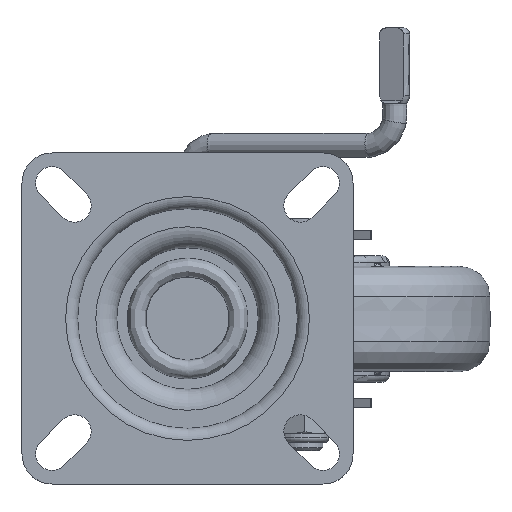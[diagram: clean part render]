
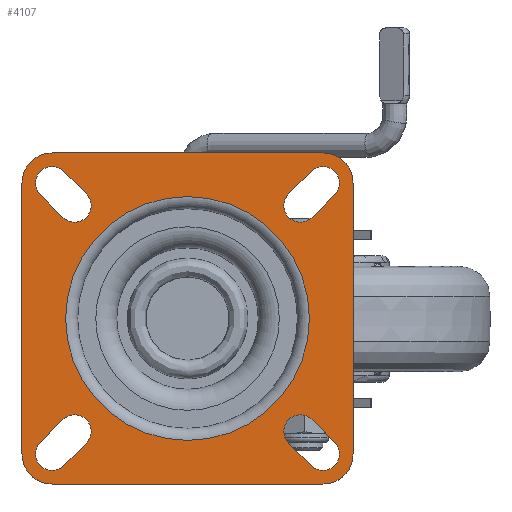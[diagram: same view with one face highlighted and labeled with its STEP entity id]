
A CAD part, top view. The second image highlights one B-rep face of the part: STEP entity #4107.
In plain terms, the highlighted planar face has unit normal (0, 0, 1).
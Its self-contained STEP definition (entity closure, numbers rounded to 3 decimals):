
#667=LINE('',#33114,#1334);
#668=LINE('',#33119,#1335);
#669=LINE('',#33125,#1336);
#670=LINE('',#33129,#1337);
#671=LINE('',#33130,#1338);
#672=LINE('',#33135,#1339);
#673=LINE('',#33139,#1340);
#674=LINE('',#33143,#1341);
#675=LINE('',#33149,#1342);
#676=LINE('',#33153,#1343);
#677=LINE('',#33154,#1344);
#678=LINE('',#33159,#1345);
#1334=VECTOR('',#19360,1.);
#1335=VECTOR('',#19363,1.);
#1336=VECTOR('',#19368,1.);
#1337=VECTOR('',#19371,1.);
#1338=VECTOR('',#19372,1.);
#1339=VECTOR('',#19375,1.);
#1340=VECTOR('',#19378,1.);
#1341=VECTOR('',#19381,1.);
#1342=VECTOR('',#19386,1.);
#1343=VECTOR('',#19389,1.);
#1344=VECTOR('',#19390,1.);
#1345=VECTOR('',#19393,1.);
#1829=PLANE('',#16279);
#2659=CIRCLE('',#16263,40.5);
#2661=CIRCLE('',#16267,5.5);
#2662=CIRCLE('',#16268,5.5);
#2663=CIRCLE('',#16269,5.5);
#2664=CIRCLE('',#16270,5.5);
#2665=CIRCLE('',#16271,10.);
#2666=CIRCLE('',#16272,10.);
#2667=CIRCLE('',#16273,10.);
#2668=CIRCLE('',#16274,10.);
#2669=CIRCLE('',#16275,5.5);
#2670=CIRCLE('',#16276,5.5);
#2671=CIRCLE('',#16277,5.5);
#2672=CIRCLE('',#16278,5.5);
#3197=FACE_BOUND('',#5961,.T.);
#3198=FACE_BOUND('',#5962,.T.);
#3199=FACE_BOUND('',#5963,.T.);
#3200=FACE_BOUND('',#5964,.T.);
#3201=FACE_BOUND('',#5965,.T.);
#3202=FACE_BOUND('',#5966,.T.);
#4107=ADVANCED_FACE('',(#3197,#3198,#3199,#3200,#3201,#3202),#1829,.T.);
#5961=EDGE_LOOP('',(#9905,#9906,#9907,#9908));
#5962=EDGE_LOOP('',(#9909,#9910,#9911,#9912));
#5963=EDGE_LOOP('',(#9913));
#5964=EDGE_LOOP('',(#9914,#9915,#9916,#9917,#9918,#9919,#9920,#9921));
#5965=EDGE_LOOP('',(#9922,#9923,#9924,#9925));
#5966=EDGE_LOOP('',(#9926,#9927,#9928,#9929));
#9905=ORIENTED_EDGE('',*,*,#13979,.F.);
#9906=ORIENTED_EDGE('',*,*,#13980,.T.);
#9907=ORIENTED_EDGE('',*,*,#13981,.F.);
#9908=ORIENTED_EDGE('',*,*,#13982,.T.);
#9909=ORIENTED_EDGE('',*,*,#13983,.F.);
#9910=ORIENTED_EDGE('',*,*,#13984,.T.);
#9911=ORIENTED_EDGE('',*,*,#13985,.F.);
#9912=ORIENTED_EDGE('',*,*,#13986,.T.);
#9913=ORIENTED_EDGE('',*,*,#13977,.T.);
#9914=ORIENTED_EDGE('',*,*,#13987,.T.);
#9915=ORIENTED_EDGE('',*,*,#13988,.T.);
#9916=ORIENTED_EDGE('',*,*,#13989,.F.);
#9917=ORIENTED_EDGE('',*,*,#13990,.T.);
#9918=ORIENTED_EDGE('',*,*,#13991,.T.);
#9919=ORIENTED_EDGE('',*,*,#13992,.T.);
#9920=ORIENTED_EDGE('',*,*,#13993,.F.);
#9921=ORIENTED_EDGE('',*,*,#13994,.T.);
#9922=ORIENTED_EDGE('',*,*,#13995,.F.);
#9923=ORIENTED_EDGE('',*,*,#13996,.T.);
#9924=ORIENTED_EDGE('',*,*,#13997,.F.);
#9925=ORIENTED_EDGE('',*,*,#13998,.T.);
#9926=ORIENTED_EDGE('',*,*,#13999,.F.);
#9927=ORIENTED_EDGE('',*,*,#14000,.T.);
#9928=ORIENTED_EDGE('',*,*,#14001,.F.);
#9929=ORIENTED_EDGE('',*,*,#14002,.T.);
#11829=VERTEX_POINT('',#33109);
#11831=VERTEX_POINT('',#33115);
#11832=VERTEX_POINT('',#33116);
#11833=VERTEX_POINT('',#33118);
#11834=VERTEX_POINT('',#33120);
#11835=VERTEX_POINT('',#33123);
#11836=VERTEX_POINT('',#33124);
#11837=VERTEX_POINT('',#33126);
#11838=VERTEX_POINT('',#33128);
#11839=VERTEX_POINT('',#33131);
#11840=VERTEX_POINT('',#33132);
#11841=VERTEX_POINT('',#33134);
#11842=VERTEX_POINT('',#33136);
#11843=VERTEX_POINT('',#33138);
#11844=VERTEX_POINT('',#33140);
#11845=VERTEX_POINT('',#33142);
#11846=VERTEX_POINT('',#33144);
#11847=VERTEX_POINT('',#33147);
#11848=VERTEX_POINT('',#33148);
#11849=VERTEX_POINT('',#33150);
#11850=VERTEX_POINT('',#33152);
#11851=VERTEX_POINT('',#33155);
#11852=VERTEX_POINT('',#33156);
#11853=VERTEX_POINT('',#33158);
#11854=VERTEX_POINT('',#33160);
#13977=EDGE_CURVE('',#11829,#11829,#2659,.T.);
#13979=EDGE_CURVE('',#11831,#11832,#667,.T.);
#13980=EDGE_CURVE('',#11831,#11833,#2661,.T.);
#13981=EDGE_CURVE('',#11834,#11833,#668,.T.);
#13982=EDGE_CURVE('',#11834,#11832,#2662,.T.);
#13983=EDGE_CURVE('',#11835,#11836,#2663,.T.);
#13984=EDGE_CURVE('',#11835,#11837,#669,.T.);
#13985=EDGE_CURVE('',#11838,#11837,#2664,.T.);
#13986=EDGE_CURVE('',#11838,#11836,#670,.T.);
#13987=EDGE_CURVE('',#11839,#11840,#671,.T.);
#13988=EDGE_CURVE('',#11840,#11841,#2665,.T.);
#13989=EDGE_CURVE('',#11842,#11841,#672,.T.);
#13990=EDGE_CURVE('',#11842,#11843,#2666,.T.);
#13991=EDGE_CURVE('',#11843,#11844,#673,.T.);
#13992=EDGE_CURVE('',#11844,#11845,#2667,.T.);
#13993=EDGE_CURVE('',#11846,#11845,#674,.T.);
#13994=EDGE_CURVE('',#11846,#11839,#2668,.T.);
#13995=EDGE_CURVE('',#11847,#11848,#2669,.T.);
#13996=EDGE_CURVE('',#11847,#11849,#675,.T.);
#13997=EDGE_CURVE('',#11850,#11849,#2670,.T.);
#13998=EDGE_CURVE('',#11850,#11848,#676,.T.);
#13999=EDGE_CURVE('',#11851,#11852,#677,.T.);
#14000=EDGE_CURVE('',#11851,#11853,#2671,.T.);
#14001=EDGE_CURVE('',#11854,#11853,#678,.T.);
#14002=EDGE_CURVE('',#11854,#11852,#2672,.T.);
#16263=AXIS2_PLACEMENT_3D('',#33108,#19352,#19353);
#16267=AXIS2_PLACEMENT_3D('',#33117,#19361,#19362);
#16268=AXIS2_PLACEMENT_3D('',#33121,#19364,#19365);
#16269=AXIS2_PLACEMENT_3D('',#33122,#19366,#19367);
#16270=AXIS2_PLACEMENT_3D('',#33127,#19369,#19370);
#16271=AXIS2_PLACEMENT_3D('',#33133,#19373,#19374);
#16272=AXIS2_PLACEMENT_3D('',#33137,#19376,#19377);
#16273=AXIS2_PLACEMENT_3D('',#33141,#19379,#19380);
#16274=AXIS2_PLACEMENT_3D('',#33145,#19382,#19383);
#16275=AXIS2_PLACEMENT_3D('',#33146,#19384,#19385);
#16276=AXIS2_PLACEMENT_3D('',#33151,#19387,#19388);
#16277=AXIS2_PLACEMENT_3D('',#33157,#19391,#19392);
#16278=AXIS2_PLACEMENT_3D('',#33161,#19394,#19395);
#16279=AXIS2_PLACEMENT_3D('',#33162,#19396,#19397);
#19352=DIRECTION('',(0.,0.,-1.));
#19353=DIRECTION('',(1.,0.,0.));
#19360=DIRECTION('',(0.707,-0.707,0.));
#19361=DIRECTION('',(0.,0.,-1.));
#19362=DIRECTION('',(1.,0.,0.));
#19363=DIRECTION('',(-0.707,0.707,0.));
#19364=DIRECTION('',(0.,0.,-1.));
#19365=DIRECTION('',(1.,0.,0.));
#19366=DIRECTION('',(0.,0.,1.));
#19367=DIRECTION('',(1.,0.,0.));
#19368=DIRECTION('',(0.707,0.707,0.));
#19369=DIRECTION('',(0.,0.,1.));
#19370=DIRECTION('',(1.,0.,0.));
#19371=DIRECTION('',(-0.707,-0.707,0.));
#19372=DIRECTION('',(1.,0.,0.));
#19373=DIRECTION('',(0.,0.,1.));
#19374=DIRECTION('',(1.,0.,0.));
#19375=DIRECTION('',(0.,-1.,0.));
#19376=DIRECTION('',(0.,0.,1.));
#19377=DIRECTION('',(1.,0.,0.));
#19378=DIRECTION('',(-1.,0.,0.));
#19379=DIRECTION('',(0.,0.,1.));
#19380=DIRECTION('',(1.,0.,0.));
#19381=DIRECTION('',(0.,1.,0.));
#19382=DIRECTION('',(0.,0.,1.));
#19383=DIRECTION('',(1.,0.,0.));
#19384=DIRECTION('',(0.,0.,1.));
#19385=DIRECTION('',(-1.,0.,0.));
#19386=DIRECTION('',(-0.707,-0.707,0.));
#19387=DIRECTION('',(0.,0.,1.));
#19388=DIRECTION('',(-1.,0.,0.));
#19389=DIRECTION('',(0.707,0.707,0.));
#19390=DIRECTION('',(-0.707,0.707,0.));
#19391=DIRECTION('',(0.,0.,-1.));
#19392=DIRECTION('',(-1.,0.,0.));
#19393=DIRECTION('',(0.707,-0.707,0.));
#19394=DIRECTION('',(0.,0.,-1.));
#19395=DIRECTION('',(-1.,0.,0.));
#19396=DIRECTION('',(0.,0.,1.));
#19397=DIRECTION('',(-1.,0.,0.));
#33108=CARTESIAN_POINT('',(0.,0.,0.));
#33109=CARTESIAN_POINT('',(40.5,0.,0.));
#33114=CARTESIAN_POINT('',(37.361,-45.139,0.));
#33115=CARTESIAN_POINT('',(33.611,-41.389,0.));
#33116=CARTESIAN_POINT('',(41.111,-48.889,0.));
#33117=CARTESIAN_POINT('',(37.5,-37.5,0.));
#33118=CARTESIAN_POINT('',(41.389,-33.611,0.));
#33119=CARTESIAN_POINT('',(45.139,-37.361,0.));
#33120=CARTESIAN_POINT('',(48.889,-41.111,0.));
#33121=CARTESIAN_POINT('',(45.,-45.,0.));
#33122=CARTESIAN_POINT('',(37.5,37.5,0.));
#33123=CARTESIAN_POINT('',(33.611,41.389,0.));
#33124=CARTESIAN_POINT('',(41.389,33.611,0.));
#33125=CARTESIAN_POINT('',(37.361,45.139,0.));
#33126=CARTESIAN_POINT('',(41.111,48.889,0.));
#33127=CARTESIAN_POINT('',(45.,45.,0.));
#33128=CARTESIAN_POINT('',(48.889,41.111,0.));
#33129=CARTESIAN_POINT('',(45.139,37.361,0.));
#33130=CARTESIAN_POINT('',(-55.,-55.,0.));
#33131=CARTESIAN_POINT('',(-45.,-55.,0.));
#33132=CARTESIAN_POINT('',(45.,-55.,0.));
#33133=CARTESIAN_POINT('',(45.,-45.,0.));
#33134=CARTESIAN_POINT('',(55.,-45.,0.));
#33135=CARTESIAN_POINT('',(55.,0.,0.));
#33136=CARTESIAN_POINT('',(55.,45.,0.));
#33137=CARTESIAN_POINT('',(45.,45.,0.));
#33138=CARTESIAN_POINT('',(45.,55.,0.));
#33139=CARTESIAN_POINT('',(-55.,55.,0.));
#33140=CARTESIAN_POINT('',(-45.,55.,0.));
#33141=CARTESIAN_POINT('',(-45.,45.,0.));
#33142=CARTESIAN_POINT('',(-55.,45.,0.));
#33143=CARTESIAN_POINT('',(-55.,0.,0.));
#33144=CARTESIAN_POINT('',(-55.,-45.,0.));
#33145=CARTESIAN_POINT('',(-45.,-45.,0.));
#33146=CARTESIAN_POINT('',(-37.5,-37.5,0.));
#33147=CARTESIAN_POINT('',(-33.611,-41.389,0.));
#33148=CARTESIAN_POINT('',(-41.389,-33.611,0.));
#33149=CARTESIAN_POINT('',(-37.361,-45.139,0.));
#33150=CARTESIAN_POINT('',(-41.111,-48.889,0.));
#33151=CARTESIAN_POINT('',(-45.,-45.,0.));
#33152=CARTESIAN_POINT('',(-48.889,-41.111,0.));
#33153=CARTESIAN_POINT('',(-45.139,-37.361,0.));
#33154=CARTESIAN_POINT('',(-37.361,45.139,0.));
#33155=CARTESIAN_POINT('',(-33.611,41.389,0.));
#33156=CARTESIAN_POINT('',(-41.111,48.889,0.));
#33157=CARTESIAN_POINT('',(-37.5,37.5,0.));
#33158=CARTESIAN_POINT('',(-41.389,33.611,0.));
#33159=CARTESIAN_POINT('',(-45.139,37.361,0.));
#33160=CARTESIAN_POINT('',(-48.889,41.111,0.));
#33161=CARTESIAN_POINT('',(-45.,45.,0.));
#33162=CARTESIAN_POINT('',(-55.,0.,0.));
